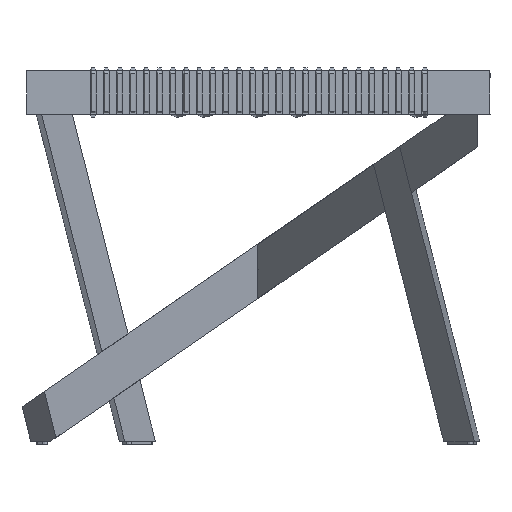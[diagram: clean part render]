
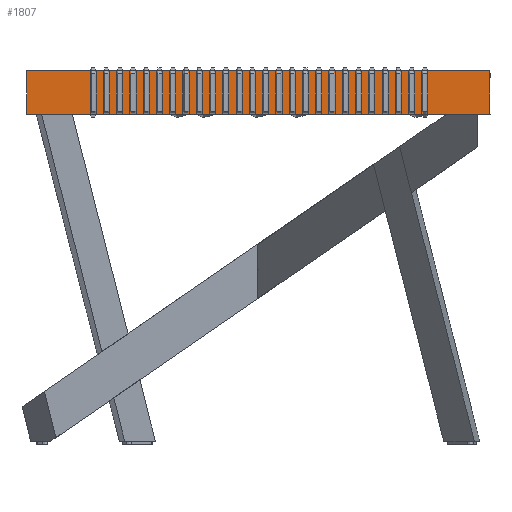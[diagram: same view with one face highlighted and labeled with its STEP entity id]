
A CAD part, left-side view. The second image highlights one B-rep face of the part: STEP entity #1807.
In plain terms, the highlighted planar face has unit normal (-1, 0, 0).
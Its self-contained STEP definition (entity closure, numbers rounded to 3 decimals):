
#1807=ADVANCED_FACE('',(#2415),#8733,.T.);
#2415=FACE_OUTER_BOUND('',#3023,.T.);
#3023=EDGE_LOOP('',(#3701,#3702,#3703,#3704));
#3701=ORIENTED_EDGE('',*,*,#6273,.F.);
#3702=ORIENTED_EDGE('',*,*,#6215,.F.);
#3703=ORIENTED_EDGE('',*,*,#6272,.F.);
#3704=ORIENTED_EDGE('',*,*,#6223,.F.);
#6215=EDGE_CURVE('',#7968,#7969,#7540,.T.);
#6223=EDGE_CURVE('',#7977,#7976,#7548,.T.);
#6272=EDGE_CURVE('',#7976,#7968,#7597,.T.);
#6273=EDGE_CURVE('',#7969,#7977,#7598,.T.);
#7540=B_SPLINE_CURVE_WITH_KNOTS('',1,(#11215,#11216),.UNSPECIFIED.,.F.,
 .F.,(2,2),(0.,454.),.UNSPECIFIED.);
#7548=B_SPLINE_CURVE_WITH_KNOTS('',1,(#11231,#11232),.UNSPECIFIED.,.F.,
 .F.,(2,2),(0.,454.),.UNSPECIFIED.);
#7597=B_SPLINE_CURVE_WITH_KNOTS('',1,(#11639,#11640,#11641,#11642,#11643,
#11644),.UNSPECIFIED.,.F.,.F.,(2,1,1,1,1,2),(-8.595,0.,
8.6,17.2,25.8,34.4),
 .UNSPECIFIED.);
#7598=B_SPLINE_CURVE_WITH_KNOTS('',1,(#11645,#11646,#11647,#11648,#11649,
#11650),.UNSPECIFIED.,.F.,.F.,(2,1,1,1,1,2),(0.,8.6,17.2,
25.8,34.4,42.995),.UNSPECIFIED.);
#7968=VERTEX_POINT('',#11177);
#7969=VERTEX_POINT('',#11178);
#7976=VERTEX_POINT('',#11185);
#7977=VERTEX_POINT('',#11186);
#8733=PLANE('',#8966);
#8966=AXIS2_PLACEMENT_3D('',#11173,#9686,$);
#9686=DIRECTION('',(-1.,0.,0.));
#11173=CARTESIAN_POINT('',(3.,499.4,318.7));
#11177=CARTESIAN_POINT('',(3.,0.,323.));
#11178=CARTESIAN_POINT('',(3.,454.,323.));
#11185=CARTESIAN_POINT('',(3.,0.,365.995));
#11186=CARTESIAN_POINT('',(3.,454.,365.995));
#11215=CARTESIAN_POINT('',(3.,0.,323.));
#11216=CARTESIAN_POINT('',(3.,454.,323.));
#11231=CARTESIAN_POINT('',(3.,454.,365.995));
#11232=CARTESIAN_POINT('',(3.,0.,365.995));
#11639=CARTESIAN_POINT('',(3.,0.,365.995));
#11640=CARTESIAN_POINT('',(3.,0.,357.4));
#11641=CARTESIAN_POINT('',(3.,0.,348.8));
#11642=CARTESIAN_POINT('',(3.,0.,340.2));
#11643=CARTESIAN_POINT('',(3.,0.,331.6));
#11644=CARTESIAN_POINT('',(3.,0.,323.));
#11645=CARTESIAN_POINT('',(3.,454.,323.));
#11646=CARTESIAN_POINT('',(3.,454.,331.6));
#11647=CARTESIAN_POINT('',(3.,454.,340.2));
#11648=CARTESIAN_POINT('',(3.,454.,348.8));
#11649=CARTESIAN_POINT('',(3.,454.,357.4));
#11650=CARTESIAN_POINT('',(3.,454.,365.995));
